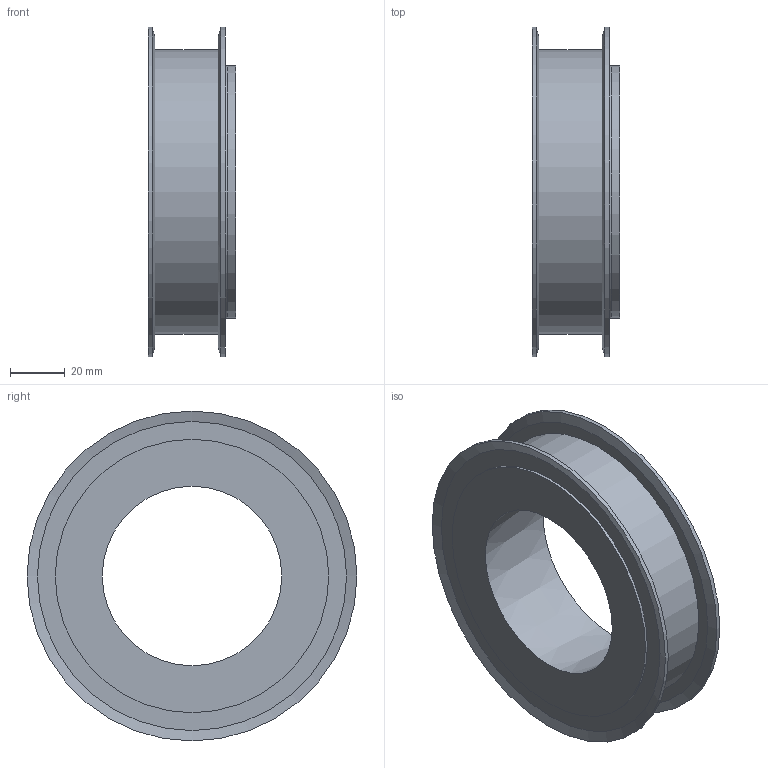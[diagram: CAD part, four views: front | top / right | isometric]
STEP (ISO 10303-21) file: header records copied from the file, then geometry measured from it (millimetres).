
FILE_DESCRIPTION(/* description */ (''),/* implementation_level */ '2;1');
FILE_NAME(/* name */ 'C:\Users\stagistaCAD\Desktop\41420044.stp',/* time_stamp */ '2018-06-18T11:10:55+02:00',/* author */ ('stagistacad'),/* organization */ (''),/* preprocessor_version */ 'ST-DEVELOPER v15.6',/* originating_system */ 'Autodesk Inventor 2015',/* authorisation */ '');
FILE_SCHEMA (('AUTOMOTIVE_DESIGN { 1 0 10303 214 3 1 1 }'));
Length unit declared in the file: millimetre
Products named in the file (1): 41420044
Bounding box: 32 x 120 x 120 mm (x, y, z)
Volume: 154955.8 mm3; surface area: 38531.3 mm2
Topology: 1 solids, 1 shells, 19 faces, 31 edges, 19 vertices
Faces by surface type: plane 7, cylinder 6, cone 5, torus 1
Full cylindrical faces by diameter (mm): 92 x1, 99.5 x2, 103.5 x1, 120 x2
Entity records: 412 total; most frequent: DIRECTION 78, CARTESIAN_POINT 58, AXIS2_PLACEMENT_3D 39, EDGE_LOOP 38, ORIENTED_EDGE 38, FACE_BOUND 19, FACE_OUTER_BOUND 19, CIRCLE 19
